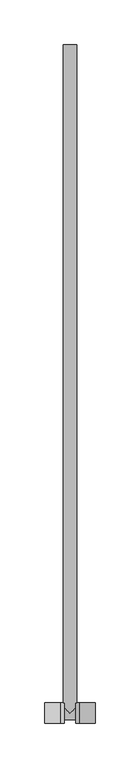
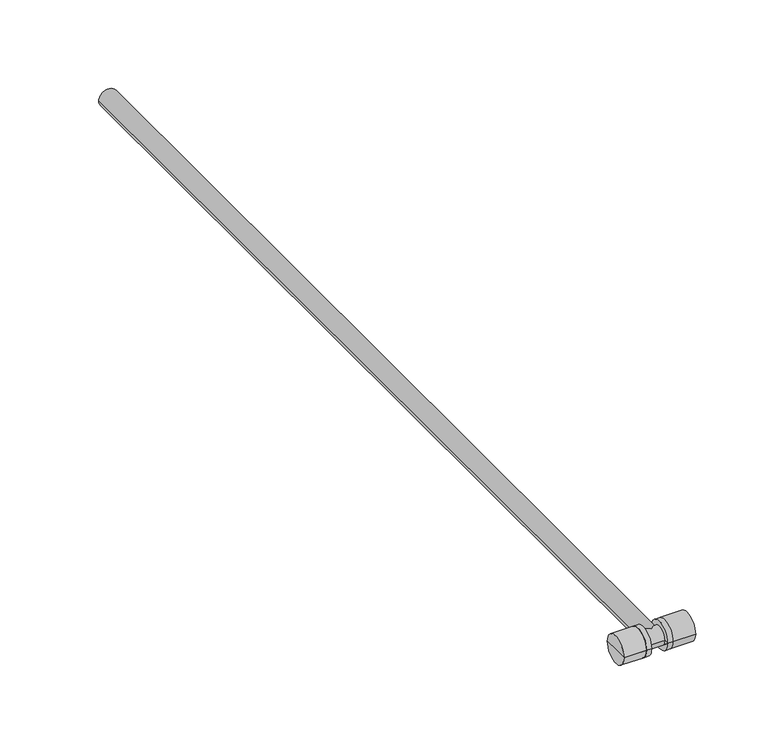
"""IFC4 building model written with IfcOpenShell, lengths in millimetres: pipe fitting geometry, KAN-therm Push 18x2 trójnik z rurą Cu15 L=750 : KAN-therm Push 18x2 trójnik z rurą Cu15 L=750."""

import ifcopenshell
import ifcopenshell.guid

model = None  # the IFC model being written
_history = None  # IfcOwnerHistory: only IFC2X3 demands one
_inside = {}  # id of a spatial element -> (the spatial element, [elements in it])
_under = {}  # id of a project, library or spatial element -> (it, [spatial elements below it])
_declared = {}  # id of a project -> (the project, [libraries it declares])
_typed = {}  # id of a type object -> (the type object, [elements of that type])
_made_of = {}  # id of a material, layer set ... -> (it, [elements and type objects made of it])


def new_model(schema):
    """Start an empty IFC model of exactly this schema.

    Asked for "IFC4X3", IfcOpenShell would pick the latest addendum, in which some entities
    have other attributes; the version numbers below select the first issue.
    IFC2X3 requires an IfcOwnerHistory on every rooted entity: one is made here for all.
    """
    global model, _history
    if schema == "IFC4X3":
        model = ifcopenshell.file(schema_version=(4, 3, 0, 0))
    else:
        model = ifcopenshell.file(schema=schema)
    _inside.clear()
    _under.clear()
    _declared.clear()
    _typed.clear()
    _made_of.clear()
    _history = None
    if model.schema == "IFC2X3":
        org = make("IfcOrganization", Name="unknown")
        user = make(
            "IfcPersonAndOrganization",
            ThePerson=make("IfcPerson", FamilyName="unknown"),
            TheOrganization=org,
        )
        app = make(
            "IfcApplication",
            ApplicationDeveloper=org,
            Version="unknown",
            ApplicationFullName="unknown",
            ApplicationIdentifier="unknown",
        )
        _history = make(
            "IfcOwnerHistory",
            OwningUser=user,
            OwningApplication=app,
            ChangeAction="ADDED",
            CreationDate=0,
        )
    return model


def make(cls, **values):
    """One entity of the class cls with the attributes given. An attribute that is None is left unset."""
    return model.create_entity(
        cls, **{name: value for name, value in values.items() if value is not None}
    )


def rooted(cls, **values):
    """An entity with a GlobalId (a new one), such as an element, a storey or a relation."""
    return make(cls, GlobalId=ifcopenshell.guid.new(), OwnerHistory=_history, **values)


def si_unit(unit_type, name, prefix=None):
    """IfcSIUnit, for example si_unit("LENGTHUNIT", "METRE", prefix="MILLI")."""
    return make("IfcSIUnit", UnitType=unit_type, Prefix=prefix, Name=name)


def assignment(units):
    """IfcUnitAssignment: the units of a project."""
    return None if units is None else make("IfcUnitAssignment", Units=units)


def point(xyz):
    """IfcCartesianPoint."""
    return None if xyz is None else make("IfcCartesianPoint", Coordinates=xyz)


def direction(xyz):
    """IfcDirection."""
    return None if xyz is None else make("IfcDirection", DirectionRatios=xyz)


def frame(location, z_axis=None, x_axis=None):
    """IfcAxis2Placement3D, a coordinate frame: its origin and axes. An axis left out is left unset."""
    return make(
        "IfcAxis2Placement3D",
        Location=point(location),
        Axis=direction(z_axis),
        RefDirection=direction(x_axis),
    )


def origin():
    """The frame at (0, 0, 0) with its axes left unset."""
    return frame((0.0, 0.0, 0.0))


def place(relative_to, where):
    """IfcLocalPlacement: puts the frame where relative to a parent placement (None: the world)."""
    return make(
        "IfcLocalPlacement", PlacementRelTo=relative_to, RelativePlacement=where
    )


def context(
    kind, dimensions, precision=None, world=None, true_north=None, identifier=None
):
    """IfcGeometricRepresentationContext, for example the 3D "Model" context."""
    return make(
        "IfcGeometricRepresentationContext",
        ContextIdentifier=identifier,
        ContextType=kind,
        CoordinateSpaceDimension=dimensions,
        Precision=precision,
        WorldCoordinateSystem=world,
        TrueNorth=true_north,
    )


def project(units=None, contexts=None):
    """IfcProject with its units and contexts."""
    return rooted(
        "IfcProject",
        Name="project",
        RepresentationContexts=contexts,
        UnitsInContext=assignment(units),
    )


def spatial(cls, under=None, at=None, **own):
    """A site, building, storey or space (cls), placed at a placement, below another one or the project."""
    s = rooted(cls, ObjectPlacement=at, **own)
    if under is not None:
        _under.setdefault(under.id(), (under, []))[1].append(s)
    return s


def circle_curve(where, radius):
    """IfcCircle in the frame where."""
    return make("IfcCircle", Position=where, Radius=radius)


def ellipse_curve(where, semi_axis1, semi_axis2):
    """IfcEllipse in the frame where."""
    return make(
        "IfcEllipse", Position=where, SemiAxis1=semi_axis1, SemiAxis2=semi_axis2
    )


def shape(context_of_items, identifier, shape_type, items):
    """IfcShapeRepresentation: the items that make up one representation, for example the "Body"."""
    return make(
        "IfcShapeRepresentation",
        ContextOfItems=context_of_items,
        RepresentationIdentifier=identifier,
        RepresentationType=shape_type,
        Items=items,
    )


def source(mapping_origin, context_of_items, identifier, shape_type, items):
    """IfcRepresentationMap: a shape defined once, which mapped items show again and again."""
    return make(
        "IfcRepresentationMap",
        MappingOrigin=mapping_origin,
        MappedRepresentation=shape(context_of_items, identifier, shape_type, items),
    )


def transform(
    local_origin,
    x_axis=None,
    y_axis=None,
    z_axis=None,
    scale=None,
    scale2=None,
    scale3=None,
    uniform=True,
):
    """IfcCartesianTransformationOperator3D, or its non-uniform kind. x_axis, y_axis, z_axis: its Axis1, 2, 3."""
    if uniform:
        return make(
            "IfcCartesianTransformationOperator3D",
            Axis1=direction(x_axis),
            Axis2=direction(y_axis),
            LocalOrigin=point(local_origin),
            Scale=scale,
            Axis3=direction(z_axis),
        )
    return make(
        "IfcCartesianTransformationOperator3DnonUniform",
        Axis1=direction(x_axis),
        Axis2=direction(y_axis),
        LocalOrigin=point(local_origin),
        Scale=scale,
        Axis3=direction(z_axis),
        Scale2=scale2,
        Scale3=scale3,
    )


def mapped(mapping_source, mapping_target):
    """IfcMappedItem: shows the shape of a source again, moved by a transform."""
    return make(
        "IfcMappedItem", MappingSource=mapping_source, MappingTarget=mapping_target
    )


def made_of(thing, what):
    """Note that an element or type object is made of a material, layer set ...; save() writes the relation."""
    if what is not None:
        _made_of.setdefault(what.id(), (what, []))[1].append(thing)
    return thing


def element(
    cls,
    number,
    at=None,
    inside=None,
    cuts=None,
    type_object=None,
    material=None,
    context=None,
    identifier="Body",
    shape_type=None,
    held_by="IfcProductDefinitionShape",
    body=None,
    shapes=None,
    **own,
):
    """One element of the class cls, such as IfcWall. Its Tag is "e" and its number.

    at: its placement. inside: the storey or other place that contains it. cuts: it is an
    opening in that element (IfcRelVoidsElement). A single representation is given by context,
    identifier, shape_type and body (its items); several are given by shapes. held_by: the class
    of the entity that holds the representations. save() writes the other relations.
    """
    e = rooted(cls, Tag="e%d" % number, ObjectPlacement=at, **own)
    if body is not None:
        shapes = [shape(context, identifier, shape_type, body)]
    if shapes is not None:
        e.Representation = make(held_by, Representations=shapes)
    if inside is not None:
        _inside.setdefault(inside.id(), (inside, []))[1].append(e)
    if cuts is not None:
        rooted(
            "IfcRelVoidsElement", RelatingBuildingElement=cuts, RelatedOpeningElement=e
        )
    if type_object is not None:
        _typed.setdefault(type_object.id(), (type_object, []))[1].append(e)
    return made_of(e, material)


def aggregate(whole, parts):
    """IfcRelAggregates: a whole, such as a stair, and the parts it consists of."""
    return rooted("IfcRelAggregates", RelatingObject=whole, RelatedObjects=parts)


def save(model, path):
    """Write the relations noted so far, then the file.

    IfcRelAggregates (storeys below a building ...), IfcRelContainedInSpatialStructure (elements
    in a storey), IfcRelDefinesByType, IfcRelAssociatesMaterial and IfcRelDeclares: one each for
    every whole, place, type object, material and project.
    """
    for whole, parts in _under.values():
        aggregate(whole, parts)
    for where, things in _inside.values():
        rooted(
            "IfcRelContainedInSpatialStructure",
            RelatedElements=things,
            RelatingStructure=where,
        )
    for kind, things in _typed.values():
        rooted("IfcRelDefinesByType", RelatedObjects=things, RelatingType=kind)
    for what, things in _made_of.values():
        rooted("IfcRelAssociatesMaterial", RelatedObjects=things, RelatingMaterial=what)
    for by, libraries in _declared.values():
        rooted("IfcRelDeclares", RelatingContext=by, RelatedDefinitions=libraries)
    model.write(path)


def plane_surface(at):
    """IfcPlane: the flat surface through the origin of the frame at, square to its z axis."""
    return make("IfcPlane", Position=at)


def cylinder_surface(at, radius):
    """IfcCylindricalSurface: all points at the distance radius from the z axis of the frame at."""
    return make("IfcCylindricalSurface", Position=at, Radius=radius)


def advanced_brep(points, edges, surfaces, faces):
    """IfcAdvancedBrep: a solid bounded by faces that lie on surfaces and meet in shared edges.

    An edge is (start, end): straight between two places in points (the first is 0);
    or (start, end, curve); or (start, end, curve, False) where it runs against its curve.
    A face is (place in surfaces, loops), or (place, loops, False) where it looks against
    its surface's normal. A loop lists edges by number (the first is 1), with a minus sign
    where the edge is run from its end to its start. The first loop is the outer one.
    """
    corners = [point(p) for p in points]
    vertices = [make("IfcVertexPoint", VertexGeometry=c) for c in corners]
    made = []
    for start, end, *more in edges:
        made.append(
            make(
                "IfcEdgeCurve",
                EdgeStart=vertices[start],
                EdgeEnd=vertices[end],
                EdgeGeometry=more[0] if more else make("IfcPolyline", Points=[corners[start], corners[end]]),
                SameSense=more[1] if len(more) > 1 else True,
            )
        )
    hull = []
    for where, loops, *sense in faces:
        bounds = []
        for j, loop in enumerate(loops):
            ring = [make("IfcOrientedEdge", EdgeElement=made[abs(k) - 1], Orientation=k > 0) for k in loop]
            bounds.append(
                make(
                    "IfcFaceOuterBound" if j == 0 else "IfcFaceBound",
                    Bound=make("IfcEdgeLoop", EdgeList=ring),
                    Orientation=True,
                )
            )
        hull.append(make("IfcAdvancedFace", Bounds=bounds, FaceSurface=surfaces[where], SameSense=sense[0] if sense else True))
    return make("IfcAdvancedBrep", Outer=make("IfcClosedShell", CfsFaces=hull))


def pipe_fitting_f6f2416c(model_context):
    return source(origin(), model_context, "Body", "AdvancedBrep", [
        advanced_brep(
        [(-10.5, -11.5, 0.0), (-10.5, 0.0, 0.0), (-10.5, 11.5, 0.0), (-6.5, -11.5, 0.0), (-6.5, 11.5, 0.0), (-6.5, 0.0, 0.0)],
        [
            (0, 1),
            (1, 2),
            (2, 0, circle_curve(frame((-10.5, 0.0, 0.0), z_axis=(-1.0, 0.0, 0.0), x_axis=(0.0, 1.0, 0.0)), 11.5)),
            (0, 2, circle_curve(frame((-10.5, 0.0, 0.0), z_axis=(-1.0, 0.0, 0.0), x_axis=(0.0, 1.0, 0.0)), 11.5)),
            (3, 0),
            (2, 4),
            (4, 3, circle_curve(frame((-6.5, 0.0, 0.0), z_axis=(-1.0, 0.0, 0.0), x_axis=(0.0, 1.0, 0.0)), 11.5)),
            (3, 4, circle_curve(frame((-6.5, 0.0, 0.0), z_axis=(-1.0, 0.0, 0.0), x_axis=(0.0, 1.0, 0.0)), 11.5)),
            (5, 3),
            (4, 5),
        ],
        [
            plane_surface(frame((-10.5, 0.0, 0.0), z_axis=(-1.0, 0.0, 0.0), x_axis=(0.0, 1.0, 0.0))),
            cylinder_surface(frame((-2005.5, 0.0, 0.0), z_axis=(1.0, 0.0, 0.0), x_axis=(0.0, 1.0, 0.0)), 11.5),
            plane_surface(frame((-6.5, 0.0, 0.0), z_axis=(1.0, 0.0, 0.0), x_axis=(0.0, 1.0, 0.0))),
        ],
        [
            (0, [[1, 2, 3]]),
            (0, [[-2, -1, 4]]),
            (1, [[5, -3, 6, 7]]),
            (1, [[-6, -4, -5, 8]]),
            (2, [[9, -7, 10]]),
            (2, [[-10, -8, -9]]),
        ],
    ),
        advanced_brep(
        [(-28.5, -11.5, 0.0), (-28.5, 0.0, 0.0), (-28.5, 11.5, 0.0), (-10.5, -11.5, 0.0), (-10.5, 11.5, 0.0), (-10.5, 0.0, 0.0)],
        [
            (0, 1),
            (1, 2),
            (2, 0, circle_curve(frame((-28.5, 0.0, 0.0), z_axis=(-1.0, 0.0, 0.0), x_axis=(0.0, 1.0, 0.0)), 11.5)),
            (0, 2, circle_curve(frame((-28.5, 0.0, 0.0), z_axis=(-1.0, 0.0, 0.0), x_axis=(0.0, 1.0, 0.0)), 11.5)),
            (3, 0),
            (2, 4),
            (4, 3, circle_curve(frame((-10.5, 0.0, 0.0), z_axis=(-1.0, 0.0, 0.0), x_axis=(0.0, 1.0, 0.0)), 11.5)),
            (3, 4, circle_curve(frame((-10.5, 0.0, 0.0), z_axis=(-1.0, 0.0, 0.0), x_axis=(0.0, 1.0, 0.0)), 11.5)),
            (5, 3),
            (4, 5),
        ],
        [
            plane_surface(frame((-28.5, 0.0, 0.0), z_axis=(-1.0, 0.0, 0.0), x_axis=(0.0, 1.0, 0.0))),
            cylinder_surface(frame((-2005.5, 0.0, 0.0), z_axis=(1.0, 0.0, 0.0), x_axis=(0.0, 1.0, 0.0)), 11.5),
            plane_surface(frame((-10.5, 0.0, 0.0), z_axis=(1.0, 0.0, 0.0), x_axis=(0.0, 1.0, 0.0))),
        ],
        [
            (0, [[1, 2, 3]]),
            (0, [[-2, -1, 4]]),
            (1, [[5, -3, 6, 7]]),
            (1, [[-6, -4, -5, 8]]),
            (2, [[9, -7, 10]]),
            (2, [[-10, -8, -9]]),
        ],
    ),
        advanced_brep(
        [(10.5, -11.5, 0.0), (10.5, 11.5, 0.0), (10.5, 0.0, 0.0), (6.5, -11.5, 0.0), (6.5, 11.5, 0.0), (6.5, 0.0, 0.0)],
        [
            (0, 1, circle_curve(frame((10.5, 0.0, 0.0), z_axis=(1.0, 0.0, 0.0), x_axis=(0.0, 1.0, 0.0)), 11.5)),
            (1, 2),
            (2, 0),
            (1, 0, circle_curve(frame((10.5, 0.0, 0.0), z_axis=(1.0, 0.0, 0.0), x_axis=(0.0, 1.0, 0.0)), 11.5)),
            (3, 4, circle_curve(frame((6.5, 0.0, 0.0), z_axis=(1.0, 0.0, 0.0), x_axis=(0.0, 1.0, 0.0)), 11.5)),
            (4, 1),
            (0, 3),
            (4, 3, circle_curve(frame((6.5, 0.0, 0.0), z_axis=(1.0, 0.0, 0.0), x_axis=(0.0, 1.0, 0.0)), 11.5)),
            (5, 4),
            (3, 5),
        ],
        [
            plane_surface(frame((10.5, 0.0, 0.0), z_axis=(1.0, 0.0, 0.0), x_axis=(0.0, 1.0, 0.0))),
            cylinder_surface(frame((2005.5, 0.0, 0.0), z_axis=(-1.0, 0.0, 0.0), x_axis=(0.0, 1.0, 0.0)), 11.5),
            plane_surface(frame((6.5, 0.0, 0.0), z_axis=(-1.0, 0.0, 0.0), x_axis=(0.0, 1.0, 0.0))),
        ],
        [
            (0, [[1, 2, 3]]),
            (0, [[4, -3, -2]]),
            (1, [[5, 6, -1, 7]]),
            (1, [[8, -7, -4, -6]]),
            (2, [[9, -5, 10]]),
            (2, [[-10, -8, -9]]),
        ],
    ),
        advanced_brep(
        [(28.5, -11.5, 0.0), (28.5, 11.5, 0.0), (28.5, 0.0, 0.0), (10.5, -11.5, 0.0), (10.5, 11.5, 0.0), (10.5, 0.0, 0.0)],
        [
            (0, 1, circle_curve(frame((28.5, 0.0, 0.0), z_axis=(1.0, 0.0, 0.0), x_axis=(0.0, 1.0, 0.0)), 11.5)),
            (1, 2),
            (2, 0),
            (1, 0, circle_curve(frame((28.5, 0.0, 0.0), z_axis=(1.0, 0.0, 0.0), x_axis=(0.0, 1.0, 0.0)), 11.5)),
            (3, 4, circle_curve(frame((10.5, 0.0, 0.0), z_axis=(1.0, 0.0, 0.0), x_axis=(0.0, 1.0, 0.0)), 11.5)),
            (4, 1),
            (0, 3),
            (4, 3, circle_curve(frame((10.5, 0.0, 0.0), z_axis=(1.0, 0.0, 0.0), x_axis=(0.0, 1.0, 0.0)), 11.5)),
            (5, 4),
            (3, 5),
        ],
        [
            plane_surface(frame((28.5, 0.0, 0.0), z_axis=(1.0, 0.0, 0.0), x_axis=(0.0, 1.0, 0.0))),
            cylinder_surface(frame((2005.5, 0.0, 0.0), z_axis=(-1.0, 0.0, 0.0), x_axis=(0.0, 1.0, 0.0)), 11.5),
            plane_surface(frame((10.5, 0.0, 0.0), z_axis=(-1.0, 0.0, 0.0), x_axis=(0.0, 1.0, 0.0))),
        ],
        [
            (0, [[1, 2, 3]]),
            (0, [[4, -3, -2]]),
            (1, [[5, 6, -1, 7]]),
            (1, [[8, -7, -4, -6]]),
            (2, [[9, -5, 10]]),
            (2, [[-10, -8, -9]]),
        ],
    ),
        advanced_brep(
        [(-7.5, 750.0, 0.0), (7.5, 750.0, 0.0), (7.5, 7.5, 0.0), (0.0, 0.0, -7.5), (-7.5, 7.5, 0.0), (0.0, 0.0, 7.5), (0.0, 750.0, 0.0), (10.5, -7.5, 0.0), (10.5, 7.5, 0.0), (10.5, 0.0, 0.0), (-10.5, 0.0, 0.0), (-10.5, 7.5, 0.0), (-10.5, -7.5, 0.0)],
        [
            (0, 1, circle_curve(frame((0.0, 750.0, 0.0), z_axis=(0.0, -1.0, 0.0), x_axis=(1.0, 0.0, 0.0)), 7.5)),
            (1, 2),
            (2, 3, ellipse_curve(frame((0.0, 0.0, 0.0), z_axis=(-0.7071067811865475, 0.7071067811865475, 0.0), x_axis=(0.7071067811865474, 0.7071067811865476, 0.0)), 10.6066017, 7.5)),
            (3, 4, ellipse_curve(frame((0.0, 0.0, 0.0), z_axis=(0.7071067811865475, 0.7071067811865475, 0.0), x_axis=(-0.7071067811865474, 0.7071067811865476, 0.0)), 10.6066017, 7.5)),
            (4, 0),
            (1, 0, circle_curve(frame((0.0, 750.0, 0.0), z_axis=(0.0, -1.0, 0.0), x_axis=(1.0, 0.0, 0.0)), 7.5)),
            (4, 5, ellipse_curve(frame((0.0, 0.0, 0.0), z_axis=(0.7071067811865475, 0.7071067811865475, 0.0), x_axis=(-0.7071067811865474, 0.7071067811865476, 0.0)), 10.6066017, 7.5)),
            (5, 2, ellipse_curve(frame((0.0, 0.0, 0.0), z_axis=(-0.7071067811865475, 0.7071067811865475, 0.0), x_axis=(0.7071067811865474, 0.7071067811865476, 0.0)), 10.6066017, 7.5)),
            (0, 6),
            (6, 1),
            (7, 8, circle_curve(frame((10.5, 0.0, 0.0), z_axis=(1.0, 0.0, 0.0), x_axis=(0.0, 1.0, 0.0)), 7.5)),
            (8, 9),
            (9, 7),
            (8, 7, circle_curve(frame((10.5, 0.0, 0.0), z_axis=(1.0, 0.0, 0.0), x_axis=(0.0, 1.0, 0.0)), 7.5)),
            (10, 11),
            (11, 12, circle_curve(frame((-10.5, 0.0, 0.0), z_axis=(-1.0, 0.0, 0.0), x_axis=(0.0, 1.0, 0.0)), 7.5)),
            (12, 10),
            (12, 11, circle_curve(frame((-10.5, 0.0, 0.0), z_axis=(-1.0, 0.0, 0.0), x_axis=(0.0, 1.0, 0.0)), 7.5)),
            (7, 12),
            (11, 4),
            (2, 8),
        ],
        [
            cylinder_surface(frame((0.0, 2450.0, 0.0), z_axis=(0.0, 1.0, 0.0), x_axis=(1.0, 0.0, 0.0)), 7.5),
            plane_surface(frame((0.0, 750.0, 0.0), z_axis=(0.0, 1.0, 0.0), x_axis=(1.0, 0.0, 0.0))),
            plane_surface(frame((10.5, 0.0, 0.0), z_axis=(1.0, 0.0, 0.0), x_axis=(0.0, 1.0, 0.0))),
            plane_surface(frame((-10.5, 0.0, 0.0), z_axis=(-1.0, 0.0, 0.0), x_axis=(0.0, 1.0, 0.0))),
            cylinder_surface(frame((2004.5, 0.0, 0.0), z_axis=(-1.0, 0.0, 0.0), x_axis=(0.0, 1.0, 0.0)), 7.5),
        ],
        [
            (0, [[1, 2, 3, 4, 5]]),
            (0, [[6, -5, 7, 8, -2]]),
            (1, [[-1, 9, 10]]),
            (1, [[-6, -10, -9]]),
            (2, [[11, 12, 13]]),
            (2, [[-12, 14, -13]]),
            (3, [[15, 16, 17]]),
            (3, [[-15, -17, 18]]),
            (4, [[-11, 19, -16, 20, -4, -3, 21]]),
            (4, [[-14, -21, -8, -7, -20, -18, -19]]),
        ],
    ),
    ])


if __name__ == "__main__":
    model = new_model("IFC4")
    model_context = context("Model", 3, world=origin())
    ifc_project = project(units=[si_unit("LENGTHUNIT", "METRE", prefix="MILLI")], contexts=[model_context])
    site = spatial("IfcSite", under=ifc_project)
    building = spatial("IfcBuilding", under=site)
    placement = place(None, origin())
    pipe_fitting_shape = pipe_fitting_f6f2416c(model_context)
    element("IfcPipeFitting", 1, ObjectType="KAN-therm Push 18x2 trójnik z rurą Cu15 L=750 : KAN-therm Push 18x2 trójnik z rurą Cu15 L=750", at=placement, inside=building, context=model_context, shape_type="MappedRepresentation", body=[
        mapped(pipe_fitting_shape, transform((0.0, 0.0, 0.0), x_axis=(1.0, 0.0, 0.0), y_axis=(0.0, 1.0, 0.0), z_axis=(0.0, 0.0, 1.0))),
    ])
    save(model, "model.ifc")
